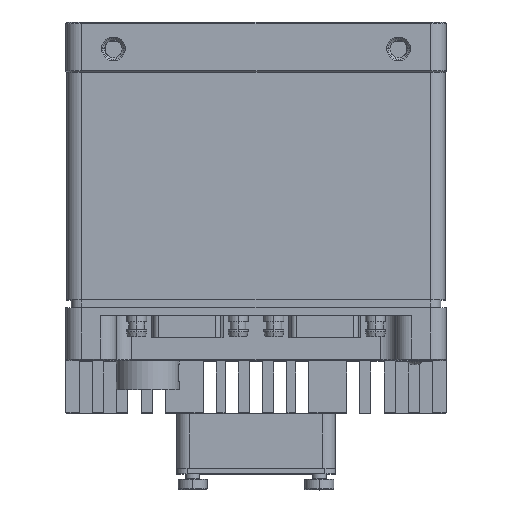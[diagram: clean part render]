
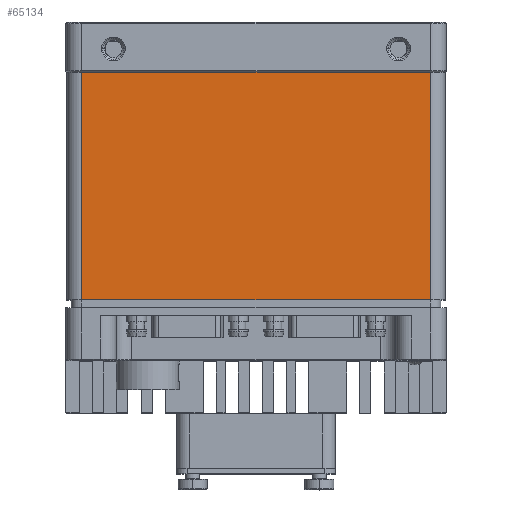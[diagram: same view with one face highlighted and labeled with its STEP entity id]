
A CAD part, top view. The second image highlights one B-rep face of the part: STEP entity #65134.
In plain terms, the highlighted planar face has unit normal (0, 0, 1).
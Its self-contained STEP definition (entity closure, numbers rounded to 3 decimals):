
#18898=DIRECTION('',(1.,0.,0.));
#18899=VECTOR('',#18898,66.);
#18900=CARTESIAN_POINT('',(-33.,-55.1,35.8));
#18901=LINE('',#18900,#18899);
#19807=DIRECTION('',(0.,-1.,0.));
#19808=VECTOR('',#19807,43.1);
#19809=CARTESIAN_POINT('',(-33.,-12.,35.8));
#19810=LINE('',#19809,#19808);
#20785=DIRECTION('',(0.,1.,0.));
#20786=VECTOR('',#20785,43.1);
#20787=CARTESIAN_POINT('',(33.,-55.1,35.8));
#20788=LINE('',#20787,#20786);
#20815=DIRECTION('',(1.,0.,0.));
#20816=VECTOR('',#20815,66.);
#20817=CARTESIAN_POINT('',(-33.,-12.,35.8));
#20818=LINE('',#20817,#20816);
#43163=CARTESIAN_POINT('',(-33.,-55.1,35.8));
#43164=VERTEX_POINT('',#43163);
#43165=CARTESIAN_POINT('',(33.,-55.1,35.8));
#43166=VERTEX_POINT('',#43165);
#43321=CARTESIAN_POINT('',(-33.,-12.,35.8));
#43322=VERTEX_POINT('',#43321);
#43323=CARTESIAN_POINT('',(33.,-12.,35.8));
#43324=VERTEX_POINT('',#43323);
#65123=CARTESIAN_POINT('',(33.,-10.,35.8));
#65124=DIRECTION('',(0.,0.,-1.));
#65125=DIRECTION('',(-1.,0.,0.));
#65126=AXIS2_PLACEMENT_3D('',#65123,#65124,#65125);
#65127=PLANE('',#65126);
#65128=ORIENTED_EDGE('',*,*,#65114,.T.);
#65129=ORIENTED_EDGE('',*,*,#65089,.F.);
#65130=ORIENTED_EDGE('',*,*,#63555,.F.);
#65131=ORIENTED_EDGE('',*,*,#64274,.F.);
#65132=EDGE_LOOP('',(#65128,#65129,#65130,#65131));
#65133=FACE_OUTER_BOUND('',#65132,.F.);
#65134=ADVANCED_FACE('',(#65133),#65127,.F.);
#63555=EDGE_CURVE('',#43164,#43166,#18901,.T.);
#64274=EDGE_CURVE('',#43322,#43164,#19810,.T.);
#65089=EDGE_CURVE('',#43166,#43324,#20788,.T.);
#65114=EDGE_CURVE('',#43322,#43324,#20818,.T.);
